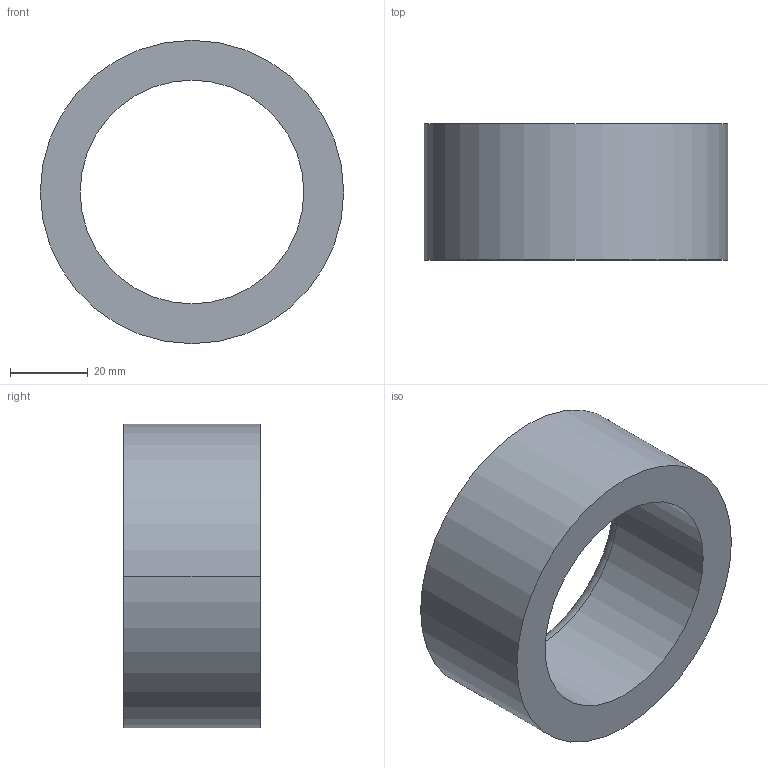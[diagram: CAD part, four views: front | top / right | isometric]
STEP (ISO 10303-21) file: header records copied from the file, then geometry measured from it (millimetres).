
FILE_DESCRIPTION (( 'STEP AP203' ), '1' );
FILE_NAME ('30800.WPP78M57.5.step', '2019-01-23T23:02:44', ( '' ), ( '' ), 'SwSTEP 2.0', 'SolidWorks 2017', '' );
FILE_SCHEMA (( 'CONFIG_CONTROL_DESIGN' ));
Length unit declared in the file: millimetre
Products named in the file (1): 30800.WPP78M57.5
Bounding box: 78 x 35 x 78 mm (x, y, z)
Volume: 75717.9 mm3; surface area: 18959.3 mm2
Topology: 1 solids, 1 shells, 8 faces, 16 edges, 10 vertices
Faces by surface type: cylinder 4, torus 2, plane 2
Entity records: 297 total; most frequent: DIRECTION 46, CARTESIAN_POINT 35, ORIENTED_EDGE 32, AXIS2_PLACEMENT_3D 21, EDGE_CURVE 16, CIRCLE 12, EDGE_LOOP 10, VERTEX_POINT 10
